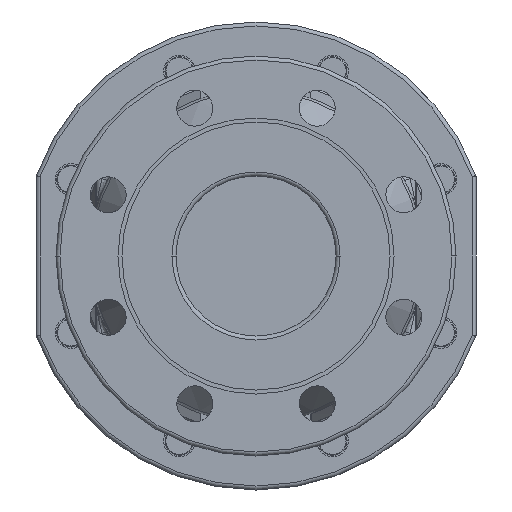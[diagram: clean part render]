
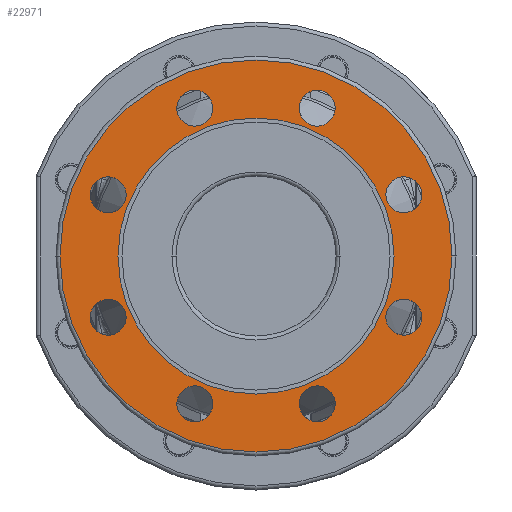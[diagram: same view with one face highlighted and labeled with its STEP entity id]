
A CAD part, left-side view. The second image highlights one B-rep face of the part: STEP entity #22971.
In plain terms, the highlighted planar face has unit normal (-1, 0, 0).
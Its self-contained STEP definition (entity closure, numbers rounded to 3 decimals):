
#5161=CARTESIAN_POINT('',(-101.,0.,0.));
#5162=DIRECTION('',(1.,0.,0.));
#5163=DIRECTION('',(0.,1.,0.));
#5164=AXIS2_PLACEMENT_3D('',#5161,#5162,#5163);
#5166=CARTESIAN_POINT('',(-101.,0.,0.));
#5167=DIRECTION('',(1.,0.,0.));
#5168=DIRECTION('',(0.,-1.,0.));
#5169=AXIS2_PLACEMENT_3D('',#5166,#5167,#5168);
#5171=CARTESIAN_POINT('',(-101.,0.,0.));
#5172=DIRECTION('',(-1.,0.,0.));
#5173=DIRECTION('',(0.,-1.,0.));
#5174=AXIS2_PLACEMENT_3D('',#5171,#5172,#5173);
#5176=CARTESIAN_POINT('',(-101.,0.,0.));
#5177=DIRECTION('',(-1.,0.,0.));
#5178=DIRECTION('',(0.,1.,0.));
#5179=AXIS2_PLACEMENT_3D('',#5176,#5177,#5178);
#5181=CARTESIAN_POINT('',(-101.,30.615,73.91));
#5182=DIRECTION('',(-1.,0.,0.));
#5183=DIRECTION('',(0.,-1.,0.));
#5184=AXIS2_PLACEMENT_3D('',#5181,#5182,#5183);
#5186=CARTESIAN_POINT('',(-101.,30.615,73.91));
#5187=DIRECTION('',(-1.,0.,0.));
#5188=DIRECTION('',(0.,1.,0.));
#5189=AXIS2_PLACEMENT_3D('',#5186,#5187,#5188);
#5191=CARTESIAN_POINT('',(-101.,-30.615,73.91));
#5192=DIRECTION('',(-1.,0.,0.));
#5193=DIRECTION('',(0.,-0.707,-0.707));
#5194=AXIS2_PLACEMENT_3D('',#5191,#5192,#5193);
#5196=CARTESIAN_POINT('',(-101.,-30.615,73.91));
#5197=DIRECTION('',(-1.,0.,0.));
#5198=DIRECTION('',(0.,0.707,0.707));
#5199=AXIS2_PLACEMENT_3D('',#5196,#5197,#5198);
#5201=CARTESIAN_POINT('',(-101.,-73.91,30.615));
#5202=DIRECTION('',(-1.,0.,0.));
#5203=DIRECTION('',(0.,0.,-1.));
#5204=AXIS2_PLACEMENT_3D('',#5201,#5202,#5203);
#5206=CARTESIAN_POINT('',(-101.,-73.91,30.615));
#5207=DIRECTION('',(-1.,0.,0.));
#5208=DIRECTION('',(0.,0.,1.));
#5209=AXIS2_PLACEMENT_3D('',#5206,#5207,#5208);
#5211=CARTESIAN_POINT('',(-101.,-73.91,-30.615));
#5212=DIRECTION('',(-1.,0.,0.));
#5213=DIRECTION('',(0.,0.707,-0.707));
#5214=AXIS2_PLACEMENT_3D('',#5211,#5212,#5213);
#5216=CARTESIAN_POINT('',(-101.,-73.91,-30.615));
#5217=DIRECTION('',(-1.,0.,0.));
#5218=DIRECTION('',(0.,-0.707,0.707));
#5219=AXIS2_PLACEMENT_3D('',#5216,#5217,#5218);
#5221=CARTESIAN_POINT('',(-101.,-30.615,-73.91));
#5222=DIRECTION('',(-1.,0.,0.));
#5223=DIRECTION('',(0.,1.,0.));
#5224=AXIS2_PLACEMENT_3D('',#5221,#5222,#5223);
#5226=CARTESIAN_POINT('',(-101.,-30.615,-73.91));
#5227=DIRECTION('',(-1.,0.,0.));
#5228=DIRECTION('',(0.,-1.,0.));
#5229=AXIS2_PLACEMENT_3D('',#5226,#5227,#5228);
#5231=CARTESIAN_POINT('',(-101.,30.615,-73.91));
#5232=DIRECTION('',(-1.,0.,0.));
#5233=DIRECTION('',(0.,0.707,0.707));
#5234=AXIS2_PLACEMENT_3D('',#5231,#5232,#5233);
#5236=CARTESIAN_POINT('',(-101.,30.615,-73.91));
#5237=DIRECTION('',(-1.,0.,0.));
#5238=DIRECTION('',(0.,-0.707,-0.707));
#5239=AXIS2_PLACEMENT_3D('',#5236,#5237,#5238);
#5241=CARTESIAN_POINT('',(-101.,73.91,-30.615));
#5242=DIRECTION('',(-1.,0.,0.));
#5243=DIRECTION('',(0.,0.,1.));
#5244=AXIS2_PLACEMENT_3D('',#5241,#5242,#5243);
#5246=CARTESIAN_POINT('',(-101.,73.91,-30.615));
#5247=DIRECTION('',(-1.,0.,0.));
#5248=DIRECTION('',(0.,0.,-1.));
#5249=AXIS2_PLACEMENT_3D('',#5246,#5247,#5248);
#5251=CARTESIAN_POINT('',(-101.,73.91,30.615));
#5252=DIRECTION('',(-1.,0.,0.));
#5253=DIRECTION('',(0.,-0.707,0.707));
#5254=AXIS2_PLACEMENT_3D('',#5251,#5252,#5253);
#5256=CARTESIAN_POINT('',(-101.,73.91,30.615));
#5257=DIRECTION('',(-1.,0.,0.));
#5258=DIRECTION('',(0.,0.707,-0.707));
#5259=AXIS2_PLACEMENT_3D('',#5256,#5257,#5258);
#14134=CARTESIAN_POINT('',(-101.,69.,0.));
#14135=CARTESIAN_POINT('',(-101.,-69.,0.));
#14136=VERTEX_POINT('',#14134);
#14137=VERTEX_POINT('',#14135);
#14138=CARTESIAN_POINT('',(-101.,98.,0.));
#14139=CARTESIAN_POINT('',(-101.,-98.,0.));
#14140=VERTEX_POINT('',#14138);
#14141=VERTEX_POINT('',#14139);
#14142=CARTESIAN_POINT('',(-101.,21.615,73.91));
#14143=CARTESIAN_POINT('',(-101.,39.615,73.91));
#14144=VERTEX_POINT('',#14142);
#14145=VERTEX_POINT('',#14143);
#14146=CARTESIAN_POINT('',(-101.,-36.979,67.546));
#14147=CARTESIAN_POINT('',(-101.,-24.251,80.274));
#14148=VERTEX_POINT('',#14146);
#14149=VERTEX_POINT('',#14147);
#14150=CARTESIAN_POINT('',(-101.,-73.91,21.615));
#14151=CARTESIAN_POINT('',(-101.,-73.91,39.615));
#14152=VERTEX_POINT('',#14150);
#14153=VERTEX_POINT('',#14151);
#14154=CARTESIAN_POINT('',(-101.,-67.546,-36.979));
#14155=CARTESIAN_POINT('',(-101.,-80.274,-24.251));
#14156=VERTEX_POINT('',#14154);
#14157=VERTEX_POINT('',#14155);
#14158=CARTESIAN_POINT('',(-101.,-21.615,-73.91));
#14159=CARTESIAN_POINT('',(-101.,-39.615,-73.91));
#14160=VERTEX_POINT('',#14158);
#14161=VERTEX_POINT('',#14159);
#14162=CARTESIAN_POINT('',(-101.,36.979,-67.546));
#14163=CARTESIAN_POINT('',(-101.,24.251,-80.274));
#14164=VERTEX_POINT('',#14162);
#14165=VERTEX_POINT('',#14163);
#14166=CARTESIAN_POINT('',(-101.,73.91,-21.615));
#14167=CARTESIAN_POINT('',(-101.,73.91,-39.615));
#14168=VERTEX_POINT('',#14166);
#14169=VERTEX_POINT('',#14167);
#14170=CARTESIAN_POINT('',(-101.,67.546,36.979));
#14171=CARTESIAN_POINT('',(-101.,80.274,24.251));
#14172=VERTEX_POINT('',#14170);
#14173=VERTEX_POINT('',#14171);
#22907=CARTESIAN_POINT('',(-101.,0.,0.));
#22908=DIRECTION('',(1.,0.,0.));
#22909=DIRECTION('',(0.,1.,0.));
#22910=AXIS2_PLACEMENT_3D('',#22907,#22908,#22909);
#22911=PLANE('',#22910);
#22913=ORIENTED_EDGE('',*,*,#22912,.T.);
#22914=ORIENTED_EDGE('',*,*,#22897,.T.);
#22915=EDGE_LOOP('',(#22913,#22914));
#22916=FACE_OUTER_BOUND('',#22915,.F.);
#22918=ORIENTED_EDGE('',*,*,#22917,.T.);
#22920=ORIENTED_EDGE('',*,*,#22919,.T.);
#22921=EDGE_LOOP('',(#22918,#22920));
#22922=FACE_BOUND('',#22921,.F.);
#22924=ORIENTED_EDGE('',*,*,#22923,.T.);
#22926=ORIENTED_EDGE('',*,*,#22925,.T.);
#22927=EDGE_LOOP('',(#22924,#22926));
#22928=FACE_BOUND('',#22927,.F.);
#22930=ORIENTED_EDGE('',*,*,#22929,.T.);
#22932=ORIENTED_EDGE('',*,*,#22931,.T.);
#22933=EDGE_LOOP('',(#22930,#22932));
#22934=FACE_BOUND('',#22933,.F.);
#22936=ORIENTED_EDGE('',*,*,#22935,.T.);
#22938=ORIENTED_EDGE('',*,*,#22937,.T.);
#22939=EDGE_LOOP('',(#22936,#22938));
#22940=FACE_BOUND('',#22939,.F.);
#22942=ORIENTED_EDGE('',*,*,#22941,.T.);
#22944=ORIENTED_EDGE('',*,*,#22943,.T.);
#22945=EDGE_LOOP('',(#22942,#22944));
#22946=FACE_BOUND('',#22945,.F.);
#22948=ORIENTED_EDGE('',*,*,#22947,.T.);
#22950=ORIENTED_EDGE('',*,*,#22949,.T.);
#22951=EDGE_LOOP('',(#22948,#22950));
#22952=FACE_BOUND('',#22951,.F.);
#22954=ORIENTED_EDGE('',*,*,#22953,.T.);
#22956=ORIENTED_EDGE('',*,*,#22955,.T.);
#22957=EDGE_LOOP('',(#22954,#22956));
#22958=FACE_BOUND('',#22957,.F.);
#22960=ORIENTED_EDGE('',*,*,#22959,.T.);
#22962=ORIENTED_EDGE('',*,*,#22961,.T.);
#22963=EDGE_LOOP('',(#22960,#22962));
#22964=FACE_BOUND('',#22963,.F.);
#22966=ORIENTED_EDGE('',*,*,#22965,.T.);
#22968=ORIENTED_EDGE('',*,*,#22967,.T.);
#22969=EDGE_LOOP('',(#22966,#22968));
#22970=FACE_BOUND('',#22969,.F.);
#22971=ADVANCED_FACE('',(#22916,#22922,#22928,#22934,#22940,#22946,#22952,
#22958,#22964,#22970),#22911,.F.);
#5165=CIRCLE('',#5164,98.);
#5170=CIRCLE('',#5169,98.);
#5175=CIRCLE('',#5174,69.);
#5180=CIRCLE('',#5179,69.);
#5185=CIRCLE('',#5184,9.);
#5190=CIRCLE('',#5189,9.);
#5195=CIRCLE('',#5194,9.);
#5200=CIRCLE('',#5199,9.);
#5205=CIRCLE('',#5204,9.);
#5210=CIRCLE('',#5209,9.);
#5215=CIRCLE('',#5214,9.);
#5220=CIRCLE('',#5219,9.);
#5225=CIRCLE('',#5224,9.);
#5230=CIRCLE('',#5229,9.);
#5235=CIRCLE('',#5234,9.);
#5240=CIRCLE('',#5239,9.);
#5245=CIRCLE('',#5244,9.);
#5250=CIRCLE('',#5249,9.);
#5255=CIRCLE('',#5254,9.);
#5260=CIRCLE('',#5259,9.);
#22897=EDGE_CURVE('',#14141,#14140,#5170,.T.);
#22912=EDGE_CURVE('',#14140,#14141,#5165,.T.);
#22917=EDGE_CURVE('',#14137,#14136,#5175,.T.);
#22919=EDGE_CURVE('',#14136,#14137,#5180,.T.);
#22923=EDGE_CURVE('',#14144,#14145,#5185,.T.);
#22925=EDGE_CURVE('',#14145,#14144,#5190,.T.);
#22929=EDGE_CURVE('',#14148,#14149,#5195,.T.);
#22931=EDGE_CURVE('',#14149,#14148,#5200,.T.);
#22935=EDGE_CURVE('',#14152,#14153,#5205,.T.);
#22937=EDGE_CURVE('',#14153,#14152,#5210,.T.);
#22941=EDGE_CURVE('',#14156,#14157,#5215,.T.);
#22943=EDGE_CURVE('',#14157,#14156,#5220,.T.);
#22947=EDGE_CURVE('',#14160,#14161,#5225,.T.);
#22949=EDGE_CURVE('',#14161,#14160,#5230,.T.);
#22953=EDGE_CURVE('',#14164,#14165,#5235,.T.);
#22955=EDGE_CURVE('',#14165,#14164,#5240,.T.);
#22959=EDGE_CURVE('',#14168,#14169,#5245,.T.);
#22961=EDGE_CURVE('',#14169,#14168,#5250,.T.);
#22965=EDGE_CURVE('',#14172,#14173,#5255,.T.);
#22967=EDGE_CURVE('',#14173,#14172,#5260,.T.);
